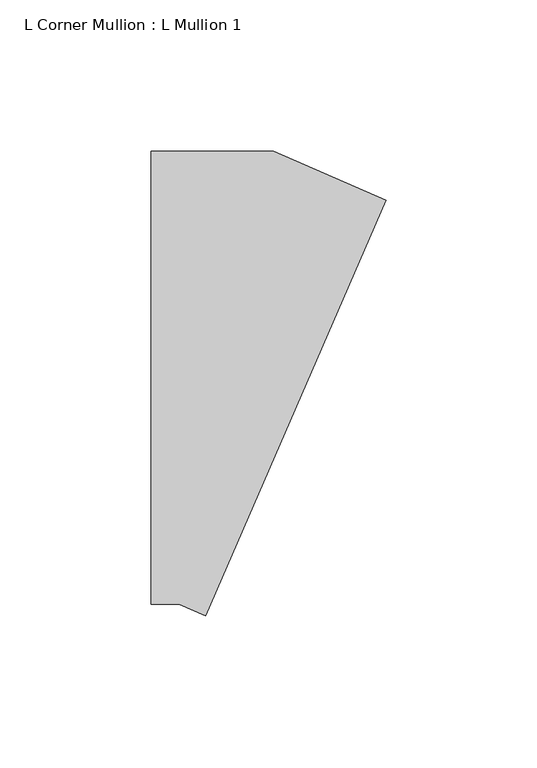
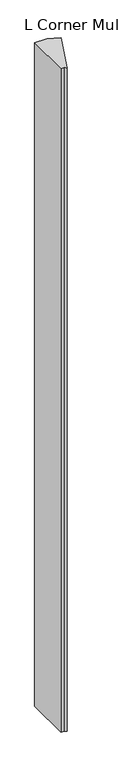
"""IFC4 building model written with IfcOpenShell, lengths in millimetres: member geometry, L Corner Mullion : L Mullion 1."""

from ifc_helpers import new_model, si_unit, frame, origin, place, context, project, spatial, polyline, outline, extrude, source, transform, mapped, element, save


def l_corner_mullion_l_mullion_1_c407f70c(model_context):
    return source(origin(), model_context, "Body", "SweptSolid", [
        extrude(outline(polyline([(-6.9804684, -78.7481623), (-15.600415, -75.0), (-25.0, -75.0), (-25.0, 75.0), (15.600415, 75.0), (52.8332721, 58.8102488), (-6.9804684, -78.7481623)])), frame((0.0, 0.0, -2307.3320839), z_axis=(0.0, 0.0, 1.0), x_axis=(1.0, 0.0, 0.0)), (0.0, 0.0, 1.0), 2307.3320839),
    ])


if __name__ == "__main__":
    model = new_model("IFC4")
    model_context = context("Model", 3, world=origin())
    ifc_project = project(units=[si_unit("LENGTHUNIT", "METRE", prefix="MILLI")], contexts=[model_context])
    site = spatial("IfcSite", under=ifc_project)
    building = spatial("IfcBuilding", under=site)
    placement = place(None, origin())
    l_corner_mullion_l_mullion_1_shape = l_corner_mullion_l_mullion_1_c407f70c(model_context)
    element("IfcMember", 1, ObjectType="L Corner Mullion : L Mullion 1", at=placement, inside=building, context=model_context, shape_type="MappedRepresentation", body=[
        mapped(l_corner_mullion_l_mullion_1_shape, transform((0.0, 0.0, 0.0), x_axis=(1.0, 0.0, 0.0), y_axis=(0.0, 1.0, 0.0), z_axis=(0.0, 0.0, 1.0))),
    ])
    save(model, "model.ifc")
